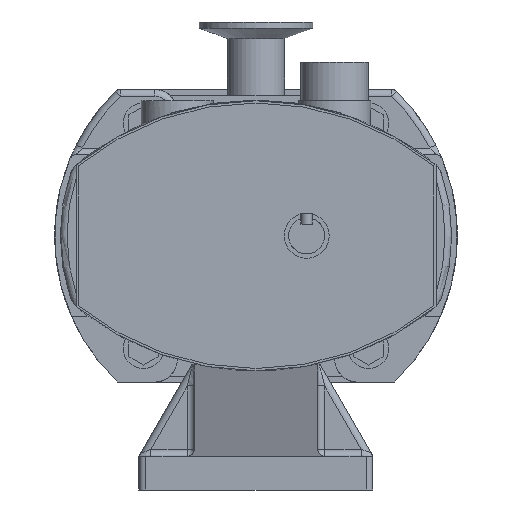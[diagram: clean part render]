
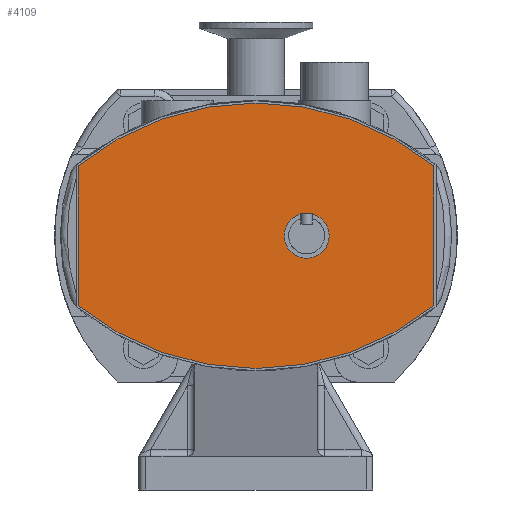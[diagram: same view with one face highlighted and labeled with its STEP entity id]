
A CAD part, left-side view. The second image highlights one B-rep face of the part: STEP entity #4109.
In plain terms, the highlighted planar face has unit normal (-1, 0, 0).
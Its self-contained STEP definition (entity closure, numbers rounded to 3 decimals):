
#98=FACE_BOUND('',#818,.T.);
#99=FACE_BOUND('',#819,.T.);
#388=CIRCLE('',#4476,10.);
#389=CIRCLE('',#4481,125.736);
#391=CIRCLE('',#4485,125.736);
#818=EDGE_LOOP('',(#3185));
#819=EDGE_LOOP('',(#3186,#3187,#3188,#3189));
#1140=LINE('',#7218,#1475);
#1144=LINE('',#7229,#1479);
#1475=VECTOR('',#5306,62.166);
#1479=VECTOR('',#5318,62.166);
#1866=VERTEX_POINT('',#7202);
#1867=VERTEX_POINT('',#7208);
#1868=VERTEX_POINT('',#7209);
#1871=VERTEX_POINT('',#7217);
#1873=VERTEX_POINT('',#7223);
#2347=EDGE_CURVE('',#1866,#1866,#388,.T.);
#2348=EDGE_CURVE('',#1867,#1868,#389,.T.);
#2352=EDGE_CURVE('',#1868,#1871,#1140,.T.);
#2355=EDGE_CURVE('',#1871,#1873,#391,.T.);
#2358=EDGE_CURVE('',#1873,#1867,#1144,.T.);
#3185=ORIENTED_EDGE('',*,*,#2347,.T.);
#3186=ORIENTED_EDGE('',*,*,#2348,.T.);
#3187=ORIENTED_EDGE('',*,*,#2352,.T.);
#3188=ORIENTED_EDGE('',*,*,#2355,.T.);
#3189=ORIENTED_EDGE('',*,*,#2358,.T.);
#3780=PLANE('',#4490);
#4109=ADVANCED_FACE('',(#98,#99),#3780,.F.);
#4476=AXIS2_PLACEMENT_3D('',#7203,#5288,#5289);
#4481=AXIS2_PLACEMENT_3D('',#7210,#5298,#5299);
#4485=AXIS2_PLACEMENT_3D('',#7224,#5311,#5312);
#4490=AXIS2_PLACEMENT_3D('',#7235,#5326,#5327);
#5288=DIRECTION('center_axis',(1.,0.,0.));
#5289=DIRECTION('ref_axis',(0.,0.,-1.));
#5298=DIRECTION('center_axis',(-1.,0.,0.));
#5299=DIRECTION('ref_axis',(0.,-0.628,0.778));
#5306=DIRECTION('',(0.,0.,1.));
#5311=DIRECTION('center_axis',(-1.,0.,0.));
#5312=DIRECTION('ref_axis',(0.,0.628,-0.778));
#5318=DIRECTION('',(0.,0.,-1.));
#5326=DIRECTION('center_axis',(1.,0.,0.));
#5327=DIRECTION('ref_axis',(0.,0.,-1.));
#7202=CARTESIAN_POINT('',(-204.,-22.5,10.));
#7203=CARTESIAN_POINT('Origin',(-204.,-22.5,0.));
#7208=CARTESIAN_POINT('',(-204.,79.,-31.083));
#7209=CARTESIAN_POINT('',(-204.,-79.,-31.083));
#7210=CARTESIAN_POINT('Origin',(-204.,0.,66.736));
#7217=CARTESIAN_POINT('',(-204.,-79.,31.083));
#7218=CARTESIAN_POINT('',(-204.,-79.,15.541));
#7223=CARTESIAN_POINT('',(-204.,79.,31.083));
#7224=CARTESIAN_POINT('Origin',(-204.,0.,-66.736));
#7229=CARTESIAN_POINT('',(-204.,79.,-15.541));
#7235=CARTESIAN_POINT('Origin',(-204.,0.,0.));
